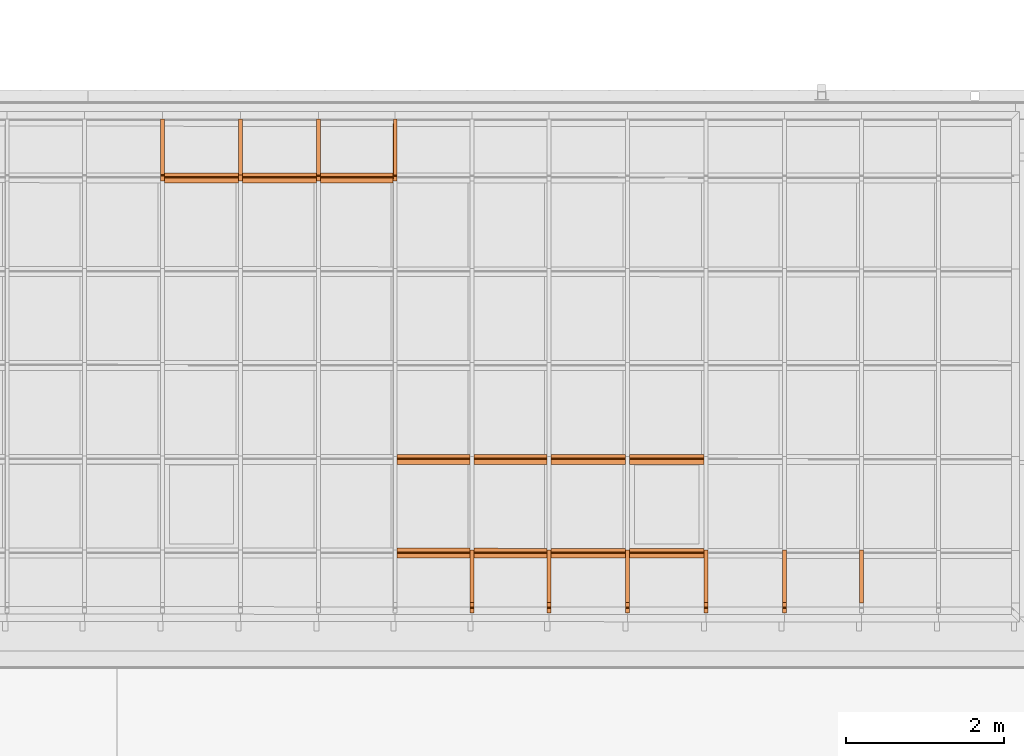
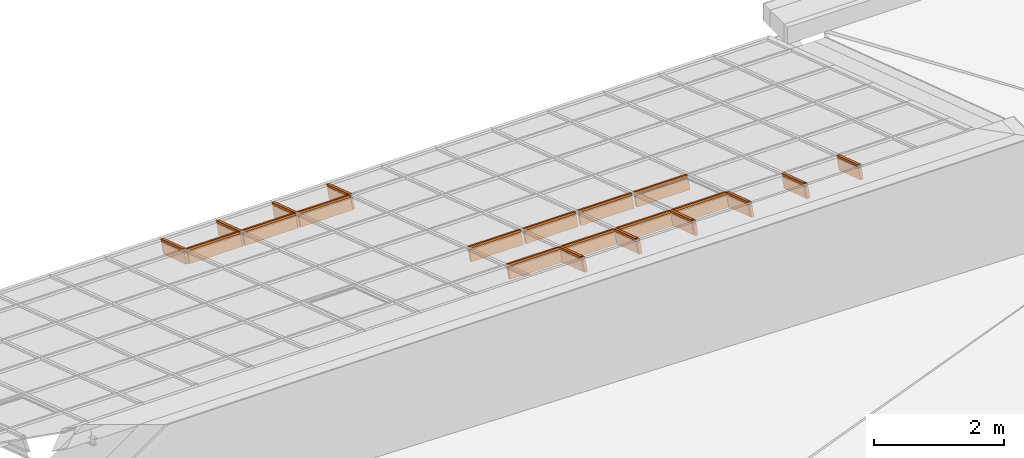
# One storey, part 45 of 47: 26 proxies, 1 element without a shape of its own.
"""IFC2X3 building model written with IfcOpenShell, lengths in millimetres."""

from ifc_helpers import new_model, entity, si_unit, converted_unit, derived_unit, money_unit, direction, frame, origin_with_axes, place, context, subcontext, project, spatial, polyline, outline, extrude, material, material_list, type_object, element, aggregate, save


model = new_model("IFC2X3")

# Units and contexts
model_context = context("Model", 3, precision=1e-05, world=origin_with_axes(), true_north=direction((0.0, 1.0)))
body_context = subcontext(model_context, "Body", "Model", "MODEL_VIEW")
ifc_project = project(units=[si_unit("LENGTHUNIT", "METRE", prefix="MILLI"), si_unit("AREAUNIT", "SQUARE_METRE"), si_unit("VOLUMEUNIT", "CUBIC_METRE"), converted_unit("PLANEANGLEUNIT", "DEGREE", entity("IfcPlaneAngleMeasure", 0.0174532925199), si_unit("PLANEANGLEUNIT", "RADIAN"), dimensions=[0, 0, 0, 0, 0, 0, 0]), si_unit("SOLIDANGLEUNIT", "STERADIAN"), money_unit("EUR"), converted_unit("TIMEUNIT", "Year", entity("IfcTimeMeasure", 31556926.0), si_unit("TIMEUNIT", "SECOND"), dimensions=[0, 0, 1, 0, 0, 0, 0]), si_unit("MASSUNIT", "GRAM", prefix="KILO"), si_unit("THERMODYNAMICTEMPERATUREUNIT", "DEGREE_CELSIUS"), si_unit("LUMINOUSINTENSITYUNIT", "LUMEN"), si_unit("ENERGYUNIT", "JOULE", prefix="MEGA"), derived_unit("THERMALCONDUCTANCEUNIT", [(si_unit("POWERUNIT", "WATT"), 1), (si_unit("LENGTHUNIT", "METRE"), -1), (si_unit("THERMODYNAMICTEMPERATUREUNIT", "KELVIN"), -1)]), derived_unit("SPECIFICHEATCAPACITYUNIT", [(si_unit("ENERGYUNIT", "JOULE"), 1), (si_unit("MASSUNIT", "GRAM", prefix="KILO"), -1), (si_unit("THERMODYNAMICTEMPERATUREUNIT", "KELVIN"), -1)]), derived_unit("MASSDENSITYUNIT", [(si_unit("MASSUNIT", "GRAM", prefix="KILO"), 1), (si_unit("VOLUMEUNIT", "CUBIC_METRE"), -1)])], contexts=[model_context])

# Site, building, storey
site_placement = place(None, origin_with_axes())
site = spatial("IfcSite", under=ifc_project, at=site_placement, Name="Site", CompositionType="ELEMENT")
building_placement = place(site_placement, origin_with_axes())
building = spatial("IfcBuilding", under=site, at=building_placement, Name="Building", CompositionType="ELEMENT")
storey_placement = place(building_placement, frame((0.0, 0.0, 6000.0), z_axis=(0.0, 0.0, 1.0), x_axis=(1.0, 0.0, 0.0)))
storey = spatial("IfcBuildingStorey", under=building, at=storey_placement, Name="KATUSEPLAAN", CompositionType="ELEMENT", Elevation=6000.0)

# Curtain wall, proxies
curtain_wall_type = type_object("IfcCurtainWallType", Name="KK-2", PredefinedType="NOTDEFINED")
curtain_wall_placement = place(storey_placement, frame((71638.1505463, 41358.6055567, 722.550081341), z_axis=(0.0, 0.0, 1.0), x_axis=(1.0, 0.0, 0.0)))
curtain_wall = element("IfcCurtainWall", 1, at=curtain_wall_placement, inside=storey, type_object=curtain_wall_type, Name="Talveaja klaaskatus")
ifc_material = material(Name="Alumiinium (1)")
ifc_material_list = material_list([ifc_material, ifc_material])
building_element_proxy_type_1 = type_object("IfcBuildingElementProxyType", Name="Frame-Mll-561", PredefinedType="NOTDEFINED")
proxy_1_placement = place(curtain_wall_placement, frame((5395.99771322, 5980.24105006, 9.44161579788), z_axis=(0.0, -0.950019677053, 0.312190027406), x_axis=(-0.999999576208, 0.000287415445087, 0.000874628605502)))
proxy_1 = element("IfcBuildingElementProxy", 2, at=proxy_1_placement, type_object=building_element_proxy_type_1, material=ifc_material_list, Name="Alumiinium (1);  Objekti nimi: Frame 22", context=body_context, shape_type="SweptSolid", body=[
    extrude(outline(polyline([(25.0091958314, 9.97697969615), (25.1841179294, 199.976899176), (-24.8158608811, 200.022931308), (-24.990782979, 10.0230118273), (25.0091958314, 9.97697969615)])), frame((0.0, 0.0, 49.9999999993), z_axis=(0.0, 0.0, 1.0), x_axis=(0.999999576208, 0.000920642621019, 0.0)), (0.0, 0.0, 1.0), 744.739022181),
    extrude(outline(polyline([(-25.0091958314, -9.9769796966), (-25.0460215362, -49.9769627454), (24.9539572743, -50.0229948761), (24.990782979, -10.0230118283), (-25.0091958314, -9.9769796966)])), frame((0.0, 0.0, 49.9999999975), z_axis=(0.0, 0.0, 1.0), x_axis=(0.999999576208, 0.000920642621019, 0.0)), (0.0, 0.0, 1.0), 744.739022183),
])
building_element_proxy_type_2 = type_object("IfcBuildingElementProxyType", Name="Frame-Mll-207", PredefinedType="NOTDEFINED")
proxy_2_placement = place(curtain_wall_placement, frame((6381.99729536, 5979.95765844, 8.57923199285), z_axis=(0.0, -0.950019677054, 0.312190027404), x_axis=(-0.999999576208, 0.000287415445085, 0.000874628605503)))
proxy_2 = element("IfcBuildingElementProxy", 3, at=proxy_2_placement, type_object=building_element_proxy_type_2, material=ifc_material_list, Name="Alumiinium (1);  Objekti nimi: Frame 22", context=body_context, shape_type="SweptSolid", body=[
    extrude(outline(polyline([(25.0091958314, 9.9769796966), (25.1841179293, 199.976899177), (-24.8158608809, 200.022931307), (-24.990782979, 10.0230118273), (25.0091958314, 9.9769796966)])), frame((-1.13686837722e-10, -4.54747350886e-10, 49.9999999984), z_axis=(0.0, 0.0, 1.0), x_axis=(0.999999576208, 0.000920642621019, 0.0)), (0.0, 0.0, 1.0), 744.739022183),
    extrude(outline(polyline([(-25.0091958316, -9.97697969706), (-25.0460215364, -49.9769627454), (24.9539572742, -50.0229948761), (24.9907829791, -10.0230118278), (-25.0091958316, -9.97697969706)])), frame((-1.13686837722e-10, -4.54747350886e-10, 49.9999999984), z_axis=(0.0, 0.0, 1.0), x_axis=(0.999999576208, 0.000920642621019, 0.0)), (0.0, 0.0, 1.0), 744.739022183),
])
building_element_proxy_type_3 = type_object("IfcBuildingElementProxyType", Name="Frame-Mll-565", PredefinedType="NOTDEFINED")
proxy_3_placement = place(curtain_wall_placement, frame((7367.9968775, 5979.67426681, 7.71684818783), z_axis=(0.0, -0.950019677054, 0.312190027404), x_axis=(-0.999999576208, 0.00028741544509, 0.000874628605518)))
proxy_3 = element("IfcBuildingElementProxy", 4, at=proxy_3_placement, type_object=building_element_proxy_type_3, material=ifc_material_list, Name="Alumiinium (1);  Objekti nimi: Frame 22", context=body_context, shape_type="SweptSolid", body=[
    extrude(outline(polyline([(25.0091958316, 9.97697969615), (25.1841179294, 199.976899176), (-24.8158608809, 200.022931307), (-24.990782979, 10.0230118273), (25.0091958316, 9.97697969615)])), frame((0.0, -4.54747350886e-10, 50.0000000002), z_axis=(0.0, 0.0, 1.0), x_axis=(0.999999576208, 0.000920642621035, 0.0)), (0.0, 0.0, 1.0), 744.739022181),
    extrude(outline(polyline([(-25.0091958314, -9.97697969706), (-25.0460215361, -49.9769627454), (24.9539572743, -50.0229948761), (24.9907829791, -10.0230118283), (-25.0091958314, -9.97697969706)])), frame((0.0, 0.0, 49.9999999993), z_axis=(0.0, 0.0, 1.0), x_axis=(0.999999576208, 0.000920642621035, 0.0)), (0.0, 0.0, 1.0), 744.739022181),
])
building_element_proxy_type_4 = type_object("IfcBuildingElementProxyType", Name="Frame-Mll-209", PredefinedType="NOTDEFINED")
proxy_4_placement = place(curtain_wall_placement, frame((8340.99646516, 5979.39461158, 6.86583455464), z_axis=(0.0, -0.950019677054, 0.312190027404), x_axis=(-0.999999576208, 0.00028741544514, 0.000874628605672)))
proxy_4 = element("IfcBuildingElementProxy", 5, at=proxy_4_placement, type_object=building_element_proxy_type_4, material=ifc_material_list, Name="Alumiinium (1);  Objekti nimi: Frame 22", context=body_context, shape_type="SweptSolid", body=[
    extrude(outline(polyline([(25.0091958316, 9.9769796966), (25.1841179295, 199.976899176), (-24.8158608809, 200.022931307), (-24.990782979, 10.0230118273), (25.0091958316, 9.9769796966)])), frame((1.13686837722e-10, 0.0, 50.0000000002), z_axis=(0.0, 0.0, 1.0), x_axis=(0.999999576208, 0.000920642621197, 0.0)), (0.0, 0.0, 1.0), 744.739022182),
    extrude(outline(polyline([(-25.0091958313, -9.97697969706), (-25.0460215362, -49.9769627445), (24.9539572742, -50.0229948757), (24.990782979, -10.0230118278), (-25.0091958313, -9.97697969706)])), frame((1.13686837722e-10, 0.0, 50.0000000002), z_axis=(0.0, 0.0, 1.0), x_axis=(0.999999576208, 0.000920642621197, 0.0)), (0.0, 0.0, 1.0), 744.739022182),
])
building_element_proxy_type_5 = type_object("IfcBuildingElementProxyType", Name="Frame-Mll-890", PredefinedType="NOTDEFINED")
proxy_5_placement = place(curtain_wall_placement, frame((14241.9939644, 472.582478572, 1810.76438529), z_axis=(0.0, -0.950019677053, 0.312190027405), x_axis=(-0.999999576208, 0.000287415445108, 0.000874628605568)))
proxy_5 = element("IfcBuildingElementProxy", 6, at=proxy_5_placement, type_object=building_element_proxy_type_5, material=ifc_material_list, Name="Alumiinium (1);  Objekti nimi: Frame 22", context=body_context, shape_type="SweptSolid", body=[
    extrude(outline(polyline([(25.0091958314, 9.9769796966), (25.1841179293, 199.976899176), (-24.8158608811, 200.022931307), (-24.990782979, 10.0230118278), (25.0091958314, 9.9769796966)])), frame((0.0, 0.0, 0.0), z_axis=(0.0, 0.0, 1.0), x_axis=(0.999999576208, 0.000920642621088, 0.0)), (0.0, 0.0, 1.0), 700.000000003),
    extrude(outline(polyline([(-25.0091958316, -9.9769796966), (-25.0460215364, -49.9769627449), (24.9539572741, -50.0229948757), (24.990782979, -10.0230118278), (-25.0091958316, -9.9769796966)])), frame((0.0, 0.0, -1.81898940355e-09), z_axis=(0.0, 0.0, 1.0), x_axis=(0.999999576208, 0.000920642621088, 0.0)), (0.0, 0.0, 1.0), 700.000000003),
])
building_element_proxy_type_6 = type_object("IfcBuildingElementProxyType", Name="Frame-Trs-184", PredefinedType="NOTDEFINED")
proxy_6_placement = place(curtain_wall_placement, frame((5395.99771322, 5225.22334087, 257.551212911), z_axis=(0.999999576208, -0.000287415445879, -0.000874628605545), x_axis=(0.0, -0.950019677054, 0.312190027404)))
proxy_6 = element("IfcBuildingElementProxy", 7, at=proxy_6_placement, type_object=building_element_proxy_type_6, material=ifc_material_list, Name="Alumiinium (1);  Objekti nimi: Frame 22", context=body_context, shape_type="SweptSolid", body=[
    extrude(outline(polyline([(26.8723924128, 1.695442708), (86.1885203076, 182.199173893), (38.6875384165, 197.808681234), (-20.6285894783, 17.3049500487), (26.8723924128, 1.695442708)])), frame((-9.09494701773e-10, 0.0, 25.0), z_axis=(0.0, 0.0, 1.0), x_axis=(0.950019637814, 0.312190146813, 0.0)), (0.0, 0.0, 1.0), 936.0),
    extrude(outline(polyline([(-26.8723924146, -1.69544270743), (-39.3599982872, -39.6962282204), (8.14098360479, -55.3057355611), (20.6285894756, -17.3049500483), (-26.8723924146, -1.69544270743)])), frame((-9.09494701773e-10, 0.0, 25.0), z_axis=(0.0, 0.0, 1.0), x_axis=(0.950019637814, 0.312190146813, 0.0)), (0.0, 0.0, 1.0), 936.0),
])
building_element_proxy_type_7 = type_object("IfcBuildingElementProxyType", Name="Frame-Trs-185", PredefinedType="NOTDEFINED")
proxy_7_placement = place(curtain_wall_placement, frame((6381.99729536, 5224.93994924, 256.688829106), z_axis=(0.999999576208, -0.000287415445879, -0.000874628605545), x_axis=(0.0, -0.950019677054, 0.312190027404)))
proxy_7 = element("IfcBuildingElementProxy", 8, at=proxy_7_placement, type_object=building_element_proxy_type_7, material=ifc_material_list, Name="Alumiinium (1);  Objekti nimi: Frame 22", context=body_context, shape_type="SweptSolid", body=[
    extrude(outline(polyline([(26.8723924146, 1.69544270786), (86.1885203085, 182.199173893), (38.6875384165, 197.808681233), (-20.6285894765, 17.3049500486), (26.8723924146, 1.69544270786)])), frame((9.09494701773e-10, 0.0, 24.9999999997), z_axis=(0.0, 0.0, 1.0), x_axis=(0.950019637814, 0.312190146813, 0.0)), (0.0, 0.0, 1.0), 936.0),
    extrude(outline(polyline([(-26.8723924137, -1.69544270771), (-39.3599982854, -39.69622822), (8.14098360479, -55.3057355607), (20.6285894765, -17.3049500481), (-26.8723924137, -1.69544270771)])), frame((9.09494701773e-10, 0.0, 24.9999999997), z_axis=(0.0, 0.0, 1.0), x_axis=(0.950019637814, 0.312190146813, 0.0)), (0.0, 0.0, 1.0), 936.0),
])
building_element_proxy_type_8 = type_object("IfcBuildingElementProxyType", Name="Frame-Trs-186", PredefinedType="NOTDEFINED")
proxy_8_placement = place(curtain_wall_placement, frame((7367.9968775, 5224.65655761, 255.826445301), z_axis=(0.999999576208, -0.000287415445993, -0.000874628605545), x_axis=(0.0, -0.950019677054, 0.312190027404)))
proxy_8 = element("IfcBuildingElementProxy", 9, at=proxy_8_placement, type_object=building_element_proxy_type_8, material=ifc_material_list, Name="Alumiinium (1);  Objekti nimi: Frame 22", context=body_context, shape_type="SweptSolid", body=[
    extrude(outline(polyline([(26.8723924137, 1.69544270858), (86.1885203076, 182.199173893), (38.6875384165, 197.808681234), (-20.6285894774, 17.3049500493), (26.8723924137, 1.69544270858)])), frame((9.09494701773e-10, 4.54747350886e-10, 25.0000000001), z_axis=(0.0, 0.0, 1.0), x_axis=(0.950019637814, 0.312190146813, 0.0)), (0.0, 0.0, 1.0), 923.0),
    extrude(outline(polyline([(-26.8723924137, -1.695442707), (-39.3599982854, -39.6962282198), (8.14098360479, -55.3057355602), (20.6285894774, -17.3049500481), (-26.8723924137, -1.695442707)])), frame((9.09494701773e-10, 4.54747350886e-10, 25.0), z_axis=(0.0, 0.0, 1.0), x_axis=(0.950019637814, 0.312190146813, 0.0)), (0.0, 0.0, 1.0), 923.0),
])
building_element_proxy_type_9 = type_object("IfcBuildingElementProxyType", Name="Frame-Trs-763", PredefinedType="NOTDEFINED")
proxy_9_placement = place(curtain_wall_placement, frame((8340.99646516, 1661.80311344, 1425.68803443), z_axis=(0.999999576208, -0.000287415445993, -0.000874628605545), x_axis=(0.0, -0.950019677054, 0.312190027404)))
proxy_9 = element("IfcBuildingElementProxy", 10, at=proxy_9_placement, type_object=building_element_proxy_type_9, material=ifc_material_list, Name="Alumiinium (1);  Objekti nimi: Frame 22", context=body_context, shape_type="SweptSolid", body=[
    extrude(outline(polyline([(26.8723924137, 1.69544270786), (86.1885203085, 182.199173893), (38.6875384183, 197.808681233), (-20.6285894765, 17.3049500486), (26.8723924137, 1.69544270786)])), frame((9.09494701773e-10, 0.0, 24.9999999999), z_axis=(0.0, 0.0, 1.0), x_axis=(0.950019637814, 0.312190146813, 0.0)), (0.0, 0.0, 1.0), 923.0),
    extrude(outline(polyline([(-26.8723924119, -1.695442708), (-39.3599982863, -39.6962282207), (8.1409836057, -55.3057355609), (20.6285894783, -17.3049500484), (-26.8723924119, -1.695442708)])), frame((9.09494701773e-10, 0.0, 24.9999999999), z_axis=(0.0, 0.0, 1.0), x_axis=(0.950019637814, 0.312190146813, 0.0)), (0.0, 0.0, 1.0), 923.000000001),
])
building_element_proxy_type_10 = type_object("IfcBuildingElementProxyType", Name="Frame-Mll-887", PredefinedType="NOTDEFINED")
proxy_10_placement = place(curtain_wall_placement, frame((11279.9952196, 473.43380312, 1813.35503522), z_axis=(0.0, -0.950019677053, 0.312190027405), x_axis=(-0.999999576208, 0.000287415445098, 0.000874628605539)))
proxy_10 = element("IfcBuildingElementProxy", 11, at=proxy_10_placement, type_object=building_element_proxy_type_10, material=ifc_material_list, Name="Alumiinium (1);  Objekti nimi: Frame 22", context=body_context, shape_type="SweptSolid", body=[
    extrude(outline(polyline([(25.0091958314, 9.9769796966), (25.1841179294, 199.976899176), (-24.8158608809, 200.022931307), (-24.990782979, 10.0230118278), (25.0091958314, 9.9769796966)])), frame((0.0, -4.54747350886e-10, -2.72848410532e-09), z_axis=(0.0, 0.0, 1.0), x_axis=(0.999999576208, 0.000920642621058, 0.0)), (0.0, 0.0, 1.0), 700.000000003),
    extrude(outline(polyline([(-25.0091958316, -9.97697969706), (-25.0460215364, -49.9769627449), (24.9539572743, -50.0229948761), (24.990782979, -10.0230118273), (-25.0091958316, -9.97697969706)])), frame((0.0, -4.54747350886e-10, -2.72848410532e-09), z_axis=(0.0, 0.0, 1.0), x_axis=(0.999999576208, 0.000920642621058, 0.0)), (0.0, 0.0, 1.0), 700.000000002),
])
building_element_proxy_type_11 = type_object("IfcBuildingElementProxyType", Name="Frame-Trs-765", PredefinedType="NOTDEFINED")
proxy_11_placement = place(curtain_wall_placement, frame((10286.9956405, 1661.24380298, 1423.98600717), z_axis=(0.999999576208, -0.000287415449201, -0.000874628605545), x_axis=(0.0, -0.950019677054, 0.312190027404)))
proxy_11 = element("IfcBuildingElementProxy", 12, at=proxy_11_placement, type_object=building_element_proxy_type_11, material=ifc_material_list, Name="Alumiinium (1);  Objekti nimi: Frame 22", context=body_context, shape_type="SweptSolid", body=[
    extrude(outline(polyline([(26.8723924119, 1.69544270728), (86.1885203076, 182.199173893), (38.6875384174, 197.808681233), (-20.6285894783, 17.3049500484), (26.8723924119, 1.69544270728)])), frame((0.0, 0.0, 24.9999999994), z_axis=(0.0, 0.0, 1.0), x_axis=(0.950019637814, 0.312190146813, 0.0)), (0.0, 0.0, 1.0), 943.0),
    extrude(outline(polyline([(-26.8723924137, -1.69544270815), (-39.3599982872, -39.6962282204), (8.14098360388, -55.3057355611), (20.6285894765, -17.304950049), (-26.8723924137, -1.69544270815)])), frame((0.0, 0.0, 24.9999999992), z_axis=(0.0, 0.0, 1.0), x_axis=(0.950019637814, 0.312190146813, 0.0)), (0.0, 0.0, 1.0), 943.000000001),
])
building_element_proxy_type_12 = type_object("IfcBuildingElementProxyType", Name="Frame-Trs-531", PredefinedType="NOTDEFINED")
proxy_12_placement = place(curtain_wall_placement, frame((8340.99646516, 474.278517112, 1815.92556869), z_axis=(0.999999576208, -0.000287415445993, -0.000874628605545), x_axis=(0.0, -0.950019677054, 0.312190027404)))
proxy_12 = element("IfcBuildingElementProxy", 13, at=proxy_12_placement, type_object=building_element_proxy_type_12, material=ifc_material_list, Name="Alumiinium (1);  Objekti nimi: Frame 22", context=body_context, shape_type="SweptSolid", body=[
    extrude(outline(polyline([(26.8723924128, 1.69544270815), (86.1885203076, 182.199173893), (38.6875384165, 197.808681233), (-20.6285894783, 17.3049500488), (26.8723924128, 1.69544270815)])), frame((9.09494701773e-10, 4.54747350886e-10, 24.9999999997), z_axis=(0.0, 0.0, 1.0), x_axis=(0.950019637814, 0.312190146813, 0.0)), (0.0, 0.0, 1.0), 923.0),
    extrude(outline(polyline([(-26.8723924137, -1.69544270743), (-39.3599982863, -39.69622822), (8.14098360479, -55.3057355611), (20.6285894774, -17.3049500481), (-26.8723924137, -1.69544270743)])), frame((9.09494701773e-10, 4.54747350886e-10, 24.9999999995), z_axis=(0.0, 0.0, 1.0), x_axis=(0.950019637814, 0.312190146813, 0.0)), (0.0, 0.0, 1.0), 923.000000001),
])
building_element_proxy_type_13 = type_object("IfcBuildingElementProxyType", Name="Frame-Trs-533", PredefinedType="NOTDEFINED")
proxy_13_placement = place(curtain_wall_placement, frame((10286.9956405, 473.719206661, 1814.22354142), z_axis=(0.999999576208, -0.000287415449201, -0.000874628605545), x_axis=(0.0, -0.950019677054, 0.312190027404)))
proxy_13 = element("IfcBuildingElementProxy", 14, at=proxy_13_placement, type_object=building_element_proxy_type_13, material=ifc_material_list, Name="Alumiinium (1);  Objekti nimi: Frame 22", context=body_context, shape_type="SweptSolid", body=[
    extrude(outline(polyline([(26.8723924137, 1.69544270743), (86.1885203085, 182.199173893), (38.6875384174, 197.808681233), (-20.6285894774, 17.3049500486), (26.8723924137, 1.69544270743)])), frame((9.09494701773e-10, 0.0, 25.0000000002), z_axis=(0.0, 0.0, 1.0), x_axis=(0.950019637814, 0.312190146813, 0.0)), (0.0, 0.0, 1.0), 943.0),
    extrude(outline(polyline([(-26.8723924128, -1.695442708), (-39.3599982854, -39.696228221), (8.14098360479, -55.3057355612), (20.6285894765, -17.3049500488), (-26.8723924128, -1.695442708)])), frame((9.09494701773e-10, 0.0, 24.9999999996), z_axis=(0.0, 0.0, 1.0), x_axis=(0.950019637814, 0.312190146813, 0.0)), (0.0, 0.0, 1.0), 943.000000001),
])
building_element_proxy_type_14 = type_object("IfcBuildingElementProxyType", Name="Frame-Mll-888", PredefinedType="NOTDEFINED")
proxy_14_placement = place(curtain_wall_placement, frame((12272.9947988, 473.148399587, 1812.48652901), z_axis=(0.0, -0.950019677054, 0.312190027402), x_axis=(-0.999999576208, 0.000287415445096, 0.00087462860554)))
proxy_14 = element("IfcBuildingElementProxy", 15, at=proxy_14_placement, type_object=building_element_proxy_type_14, material=ifc_material_list, Name="Alumiinium (1);  Objekti nimi: Frame 22", context=body_context, shape_type="SweptSolid", body=[
    extrude(outline(polyline([(25.0091958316, 9.97697969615), (25.1841179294, 199.976899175), (-24.8158608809, 200.022931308), (-24.990782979, 10.0230118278), (25.0091958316, 9.97697969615)])), frame((0.0, 0.0, -1.81898940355e-09), z_axis=(0.0, 0.0, 1.0), x_axis=(0.999999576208, 0.000920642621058, 0.0)), (0.0, 0.0, 1.0), 700.000000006),
    extrude(outline(polyline([(-25.0091958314, -9.9769796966), (-25.0460215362, -49.9769627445), (24.9539572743, -50.0229948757), (24.9907829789, -10.0230118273), (-25.0091958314, -9.9769796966)])), frame((0.0, 0.0, -1.81898940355e-09), z_axis=(0.0, 0.0, 1.0), x_axis=(0.999999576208, 0.000920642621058, 0.0)), (0.0, 0.0, 1.0), 700.000000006),
])
building_element_proxy_type_15 = type_object("IfcBuildingElementProxyType", Name="Frame-Mll-110", PredefinedType="NOTDEFINED")
proxy_15_placement = place(curtain_wall_placement, frame((11279.9952196, -191.579970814, 2031.8880544), z_axis=(0.0, -0.950019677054, 0.312190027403), x_axis=(-0.999999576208, 0.000287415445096, 0.00087462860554)))
proxy_15 = element("IfcBuildingElementProxy", 16, at=proxy_15_placement, type_object=building_element_proxy_type_15, material=ifc_material_list, Name="Alumiinium (1);  Objekti nimi: Frame 22", context=body_context, shape_type="SweptSolid", body=[
    extrude(outline(polyline([(25.0091958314, 9.9769796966), (25.1841179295, 199.976899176), (-24.8158608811, 200.022931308), (-24.9907829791, 10.0230118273), (25.0091958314, 9.9769796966)])), frame((0.0, -4.54747350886e-10, -1.81898940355e-09), z_axis=(0.0, 0.0, 1.0), x_axis=(0.999999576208, 0.000920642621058, 0.0)), (0.0, 0.0, 1.0), 55.2609778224),
    extrude(outline(polyline([(-25.0091958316, -9.9769796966), (-25.0460215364, -49.9769627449), (24.9539572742, -50.0229948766), (24.9907829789, -10.0230118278), (-25.0091958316, -9.9769796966)])), frame((0.0, -4.54747350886e-10, -1.81898940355e-09), z_axis=(0.0, 0.0, 1.0), x_axis=(0.999999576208, 0.000920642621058, 0.0)), (0.0, 0.0, 1.0), 55.2609778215),
])
building_element_proxy_type_16 = type_object("IfcBuildingElementProxyType", Name="Frame-Trs-764", PredefinedType="NOTDEFINED")
proxy_16_placement = place(curtain_wall_placement, frame((9313.99605281, 1661.52345821, 1424.8370208), z_axis=(0.999999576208, -0.000287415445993, -0.000874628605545), x_axis=(0.0, -0.950019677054, 0.312190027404)))
proxy_16 = element("IfcBuildingElementProxy", 17, at=proxy_16_placement, type_object=building_element_proxy_type_16, material=ifc_material_list, Name="Alumiinium (1);  Objekti nimi: Frame 22", context=body_context, shape_type="SweptSolid", body=[
    extrude(outline(polyline([(26.8723924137, 1.69544270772), (86.1885203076, 182.199173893), (38.6875384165, 197.808681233), (-20.6285894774, 17.3049500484), (26.8723924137, 1.69544270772)])), frame((-9.09494701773e-10, 0.0, 24.9999999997), z_axis=(0.0, 0.0, 1.0), x_axis=(0.950019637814, 0.312190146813, 0.0)), (0.0, 0.0, 1.0), 923.0),
    extrude(outline(polyline([(-26.8723924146, -1.69544270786), (-39.3599982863, -39.6962282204), (8.14098360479, -55.3057355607), (20.6285894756, -17.3049500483), (-26.8723924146, -1.69544270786)])), frame((-9.09494701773e-10, 0.0, 24.9999999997), z_axis=(0.0, 0.0, 1.0), x_axis=(0.950019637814, 0.312190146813, 0.0)), (0.0, 0.0, 1.0), 923.000000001),
])
building_element_proxy_type_17 = type_object("IfcBuildingElementProxyType", Name="Frame-Trs-766", PredefinedType="NOTDEFINED")
proxy_17_placement = place(curtain_wall_placement, frame((11279.9952196, 1660.95839944, 1423.11750096), z_axis=(0.999999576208, -0.000287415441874, -0.000874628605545), x_axis=(0.0, -0.950019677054, 0.312190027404)))
proxy_17 = element("IfcBuildingElementProxy", 18, at=proxy_17_placement, type_object=building_element_proxy_type_17, material=ifc_material_list, Name="Alumiinium (1);  Objekti nimi: Frame 22", context=body_context, shape_type="SweptSolid", body=[
    extrude(outline(polyline([(26.8723924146, 1.69544270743), (86.1885203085, 182.199173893), (38.6875384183, 197.808681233), (-20.6285894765, 17.3049500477), (26.8723924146, 1.69544270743)])), frame((9.09494701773e-10, 0.0, 25.0), z_axis=(0.0, 0.0, 1.0), x_axis=(0.950019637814, 0.312190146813, 0.0)), (0.0, 0.0, 1.0), 943.0),
    extrude(outline(polyline([(-26.8723924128, -1.69544270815), (-39.3599982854, -39.6962282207), (8.1409836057, -55.3057355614), (20.6285894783, -17.3049500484), (-26.8723924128, -1.69544270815)])), frame((9.09494701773e-10, 0.0, 24.9999999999), z_axis=(0.0, 0.0, 1.0), x_axis=(0.950019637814, 0.312190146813, 0.0)), (0.0, 0.0, 1.0), 943.0),
])
building_element_proxy_type_18 = type_object("IfcBuildingElementProxyType", Name="Frame-Mll-886", PredefinedType="NOTDEFINED")
proxy_18_placement = place(curtain_wall_placement, frame((10286.9956405, 473.719206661, 1814.22354142), z_axis=(0.0, -0.950019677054, 0.312190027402), x_axis=(-0.999999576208, 0.000287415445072, 0.000874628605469)))
proxy_18 = element("IfcBuildingElementProxy", 19, at=proxy_18_placement, type_object=building_element_proxy_type_18, material=ifc_material_list, Name="Alumiinium (1);  Objekti nimi: Frame 22", context=body_context, shape_type="SweptSolid", body=[
    extrude(outline(polyline([(25.0091958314, 9.9769796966), (25.1841179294, 199.976899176), (-24.8158608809, 200.022931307), (-24.9907829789, 10.0230118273), (25.0091958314, 9.9769796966)])), frame((0.0, 0.0, -2.72848410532e-09), z_axis=(0.0, 0.0, 1.0), x_axis=(0.999999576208, 0.000920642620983, 0.0)), (0.0, 0.0, 1.0), 700.000000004),
    extrude(outline(polyline([(-25.0091958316, -9.9769796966), (-25.0460215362, -49.9769627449), (24.9539572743, -50.0229948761), (24.9907829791, -10.0230118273), (-25.0091958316, -9.9769796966)])), frame((0.0, -4.54747350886e-10, -3.63797880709e-09), z_axis=(0.0, 0.0, 1.0), x_axis=(0.999999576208, 0.000920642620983, 0.0)), (0.0, 0.0, 1.0), 700.000000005),
])
building_element_proxy_type_19 = type_object("IfcBuildingElementProxyType", Name="Frame-Mll-009", PredefinedType="NOTDEFINED")
proxy_19_placement = place(curtain_wall_placement, frame((9313.99605281, -191.014912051, 2033.60757424), z_axis=(0.0, -0.950019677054, 0.312190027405), x_axis=(-0.999999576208, 0.000287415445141, 0.000874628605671)))
proxy_19 = element("IfcBuildingElementProxy", 20, at=proxy_19_placement, type_object=building_element_proxy_type_19, material=ifc_material_list, Name="Alumiinium (1);  Objekti nimi: Frame 22", context=body_context, shape_type="SweptSolid", body=[
    extrude(outline(polyline([(25.0091958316, 9.9769796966), (25.1841179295, 199.976899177), (-24.8158608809, 200.022931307), (-24.990782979, 10.0230118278), (25.0091958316, 9.9769796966)])), frame((0.0, 0.0, -1.81898940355e-09), z_axis=(0.0, 0.0, 1.0), x_axis=(0.999999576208, 0.000920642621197, 0.0)), (0.0, 0.0, 1.0), 55.2609778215),
    extrude(outline(polyline([(-25.0091958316, -9.97697969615), (-25.0460215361, -49.9769627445), (24.9539572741, -50.0229948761), (24.990782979, -10.0230118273), (-25.0091958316, -9.97697969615)])), frame((0.0, 0.0, -1.81898940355e-09), z_axis=(0.0, 0.0, 1.0), x_axis=(0.999999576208, 0.000920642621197, 0.0)), (0.0, 0.0, 1.0), 55.2609778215),
])
building_element_proxy_type_20 = type_object("IfcBuildingElementProxyType", Name="Frame-Mll-885", PredefinedType="NOTDEFINED")
proxy_20_placement = place(curtain_wall_placement, frame((9313.99605281, 473.998861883, 1815.07455505), z_axis=(0.0, -0.950019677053, 0.312190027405), x_axis=(-0.999999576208, 0.000287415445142, 0.000874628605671)))
proxy_20 = element("IfcBuildingElementProxy", 21, at=proxy_20_placement, type_object=building_element_proxy_type_20, material=ifc_material_list, Name="Alumiinium (1);  Objekti nimi: Frame 22", context=body_context, shape_type="SweptSolid", body=[
    extrude(outline(polyline([(25.0091958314, 9.9769796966), (25.1841179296, 199.976899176), (-24.8158608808, 200.022931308), (-24.9907829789, 10.0230118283), (25.0091958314, 9.9769796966)])), frame((0.0, 0.0, -9.09494701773e-10), z_axis=(0.0, 0.0, 1.0), x_axis=(0.999999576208, 0.000920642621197, 0.0)), (0.0, 0.0, 1.0), 700.000000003),
    extrude(outline(polyline([(-25.0091958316, -9.97697969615), (-25.0460215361, -49.9769627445), (24.9539572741, -50.0229948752), (24.990782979, -10.0230118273), (-25.0091958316, -9.97697969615)])), frame((0.0, 0.0, -9.09494701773e-10), z_axis=(0.0, 0.0, 1.0), x_axis=(0.999999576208, 0.000920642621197, 0.0)), (0.0, 0.0, 1.0), 700.000000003),
])
building_element_proxy_type_21 = type_object("IfcBuildingElementProxyType", Name="Frame-Mll-889", PredefinedType="NOTDEFINED")
proxy_21_placement = place(curtain_wall_placement, frame((13265.994378, 472.862996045, 1811.6180228), z_axis=(0.0, -0.950019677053, 0.312190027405), x_axis=(-0.999999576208, 0.000287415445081, 0.000874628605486)))
proxy_21 = element("IfcBuildingElementProxy", 22, at=proxy_21_placement, type_object=building_element_proxy_type_21, material=ifc_material_list, Name="Alumiinium (1);  Objekti nimi: Frame 22", context=body_context, shape_type="SweptSolid", body=[
    extrude(outline(polyline([(25.0091958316, 9.97697969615), (25.1841179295, 199.976899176), (-24.8158608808, 200.022931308), (-24.9907829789, 10.0230118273), (25.0091958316, 9.97697969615)])), frame((0.0, 4.54747350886e-10, -9.09494701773e-10), z_axis=(0.0, 0.0, 1.0), x_axis=(0.999999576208, 0.000920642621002, 0.0)), (0.0, 0.0, 1.0), 700.000000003),
    extrude(outline(polyline([(-25.0091958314, -9.9769796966), (-25.0460215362, -49.9769627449), (24.9539572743, -50.0229948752), (24.990782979, -10.0230118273), (-25.0091958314, -9.9769796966)])), frame((0.0, 0.0, -1.81898940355e-09), z_axis=(0.0, 0.0, 1.0), x_axis=(0.999999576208, 0.000920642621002, 0.0)), (0.0, 0.0, 1.0), 700.000000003),
])
building_element_proxy_type_22 = type_object("IfcBuildingElementProxyType", Name="Frame-Mll-111", PredefinedType="NOTDEFINED")
proxy_22_placement = place(curtain_wall_placement, frame((12272.9947988, -191.865374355, 2031.01954819), z_axis=(0.0, -0.950019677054, 0.312190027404), x_axis=(-0.999999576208, 0.000287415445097, 0.000874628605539)))
proxy_22 = element("IfcBuildingElementProxy", 23, at=proxy_22_placement, type_object=building_element_proxy_type_22, material=ifc_material_list, Name="Alumiinium (1);  Objekti nimi: Frame 22", context=body_context, shape_type="SweptSolid", body=[
    extrude(outline(polyline([(25.0091958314, 9.97697969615), (25.1841179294, 199.976899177), (-24.8158608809, 200.022931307), (-24.9907829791, 10.0230118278), (25.0091958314, 9.97697969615)])), frame((0.0, 0.0, 0.0), z_axis=(0.0, 0.0, 1.0), x_axis=(0.999999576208, 0.000920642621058, 0.0)), (0.0, 0.0, 1.0), 55.2609778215),
    extrude(outline(polyline([(-25.0091958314, -9.97697969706), (-25.0460215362, -49.9769627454), (24.9539572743, -50.0229948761), (24.9907829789, -10.0230118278), (-25.0091958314, -9.97697969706)])), frame((0.0, 0.0, -9.09494701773e-10), z_axis=(0.0, 0.0, 1.0), x_axis=(0.999999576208, 0.000920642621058, 0.0)), (0.0, 0.0, 1.0), 55.2609778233),
])
building_element_proxy_type_23 = type_object("IfcBuildingElementProxyType", Name="Frame-Trs-532", PredefinedType="NOTDEFINED")
proxy_23_placement = place(curtain_wall_placement, frame((9313.99605281, 473.998861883, 1815.07455505), z_axis=(0.999999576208, -0.000287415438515, -0.000874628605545), x_axis=(0.0, -0.950019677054, 0.312190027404)))
proxy_23 = element("IfcBuildingElementProxy", 24, at=proxy_23_placement, type_object=building_element_proxy_type_23, material=ifc_material_list, Name="Alumiinium (1);  Objekti nimi: Frame 22", context=body_context, shape_type="SweptSolid", body=[
    extrude(outline(polyline([(26.8723924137, 1.69544270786), (86.1885203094, 182.199173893), (38.6875384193, 197.808681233), (-20.6285894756, 17.3049500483), (26.8723924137, 1.69544270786)])), frame((0.0, 4.54747350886e-10, 24.9999999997), z_axis=(0.0, 0.0, 1.0), x_axis=(0.950019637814, 0.312190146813, 0.0)), (0.0, 0.0, 1.0), 923.0),
    extrude(outline(polyline([(-26.8723924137, -1.69544270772), (-39.3599982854, -39.6962282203), (8.1409836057, -55.3057355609), (20.6285894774, -17.3049500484), (-26.8723924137, -1.69544270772)])), frame((0.0, 4.54747350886e-10, 24.9999999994), z_axis=(0.0, 0.0, 1.0), x_axis=(0.950019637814, 0.312190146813, 0.0)), (0.0, 0.0, 1.0), 923.000000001),
])
building_element_proxy_type_24 = type_object("IfcBuildingElementProxyType", Name="Frame-Trs-534", PredefinedType="NOTDEFINED")
proxy_24_placement = place(curtain_wall_placement, frame((11279.9952196, 473.43380312, 1813.35503522), z_axis=(0.999999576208, -0.000287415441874, -0.000874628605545), x_axis=(0.0, -0.950019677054, 0.312190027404)))
proxy_24 = element("IfcBuildingElementProxy", 25, at=proxy_24_placement, type_object=building_element_proxy_type_24, material=ifc_material_list, Name="Alumiinium (1);  Objekti nimi: Frame 22", context=body_context, shape_type="SweptSolid", body=[
    extrude(outline(polyline([(26.8723924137, 1.69544270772), (86.1885203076, 182.199173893), (38.6875384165, 197.808681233), (-20.6285894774, 17.304950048), (26.8723924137, 1.69544270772)])), frame((-9.09494701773e-10, 0.0, 24.9999999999), z_axis=(0.0, 0.0, 1.0), x_axis=(0.950019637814, 0.312190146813, 0.0)), (0.0, 0.0, 1.0), 943.0),
    extrude(outline(polyline([(-26.8723924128, -1.69544270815), (-39.3599982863, -39.6962282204), (8.14098360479, -55.3057355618), (20.6285894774, -17.3049500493), (-26.8723924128, -1.69544270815)])), frame((-9.09494701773e-10, 0.0, 24.9999999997), z_axis=(0.0, 0.0, 1.0), x_axis=(0.950019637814, 0.312190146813, 0.0)), (0.0, 0.0, 1.0), 943.000000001),
])
building_element_proxy_type_25 = type_object("IfcBuildingElementProxyType", Name="Frame-Mll-112", PredefinedType="NOTDEFINED")
proxy_25_placement = place(curtain_wall_placement, frame((13265.994378, -192.150777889, 2030.15104199), z_axis=(0.0, -0.950019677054, 0.312190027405), x_axis=(-0.999999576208, 0.00028741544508, 0.000874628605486)))
proxy_25 = element("IfcBuildingElementProxy", 26, at=proxy_25_placement, type_object=building_element_proxy_type_25, material=ifc_material_list, Name="Alumiinium (1);  Objekti nimi: Frame 22", context=body_context, shape_type="SweptSolid", body=[
    extrude(outline(polyline([(25.0091958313, 9.97697969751), (25.1841179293, 199.976899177), (-24.8158608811, 200.022931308), (-24.9907829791, 10.0230118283), (25.0091958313, 9.97697969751)])), frame((0.0, 4.54747350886e-10, -1.81898940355e-09), z_axis=(0.0, 0.0, 1.0), x_axis=(0.999999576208, 0.000920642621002, 0.0)), (0.0, 0.0, 1.0), 55.2609778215),
    extrude(outline(polyline([(-25.0091958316, -9.97697969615), (-25.0460215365, -49.9769627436), (24.9539572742, -50.0229948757), (24.9907829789, -10.0230118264), (-25.0091958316, -9.97697969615)])), frame((0.0, 4.54747350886e-10, -1.81898940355e-09), z_axis=(0.0, 0.0, 1.0), x_axis=(0.999999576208, 0.000920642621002, 0.0)), (0.0, 0.0, 1.0), 55.2609778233),
])
building_element_proxy_type_26 = type_object("IfcBuildingElementProxyType", Name="Frame-Mll-010", PredefinedType="NOTDEFINED")
proxy_26_placement = place(curtain_wall_placement, frame((10286.9956405, -191.29456728, 2032.7565606), z_axis=(0.0, -0.950019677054, 0.312190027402), x_axis=(-0.999999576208, 0.000287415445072, 0.000874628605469)))
proxy_26 = element("IfcBuildingElementProxy", 27, at=proxy_26_placement, type_object=building_element_proxy_type_26, material=ifc_material_list, Name="Alumiinium (1);  Objekti nimi: Frame 22", context=body_context, shape_type="SweptSolid", body=[
    extrude(outline(polyline([(25.0091958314, 9.9769796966), (25.1841179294, 199.976899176), (-24.8158608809, 200.022931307), (-24.9907829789, 10.0230118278), (25.0091958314, 9.9769796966)])), frame((0.0, 0.0, -2.72848410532e-09), z_axis=(0.0, 0.0, 1.0), x_axis=(0.999999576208, 0.000920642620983, 0.0)), (0.0, 0.0, 1.0), 55.2609778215),
    extrude(outline(polyline([(-25.0091958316, -9.9769796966), (-25.0460215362, -49.9769627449), (24.9539572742, -50.0229948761), (24.990782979, -10.0230118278), (-25.0091958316, -9.9769796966)])), frame((0.0, 0.0, -2.72848410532e-09), z_axis=(0.0, 0.0, 1.0), x_axis=(0.999999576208, 0.000920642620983, 0.0)), (0.0, 0.0, 1.0), 55.2609778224),
])
aggregate(curtain_wall, [proxy_1, proxy_2, proxy_3, proxy_4, proxy_5, proxy_6, proxy_7, proxy_8, proxy_9, proxy_10, proxy_11, proxy_12, proxy_13, proxy_14, proxy_15, proxy_16, proxy_17, proxy_18, proxy_19, proxy_20, proxy_21, proxy_22, proxy_23, proxy_24, proxy_25, proxy_26])

save(model, "model.ifc")
